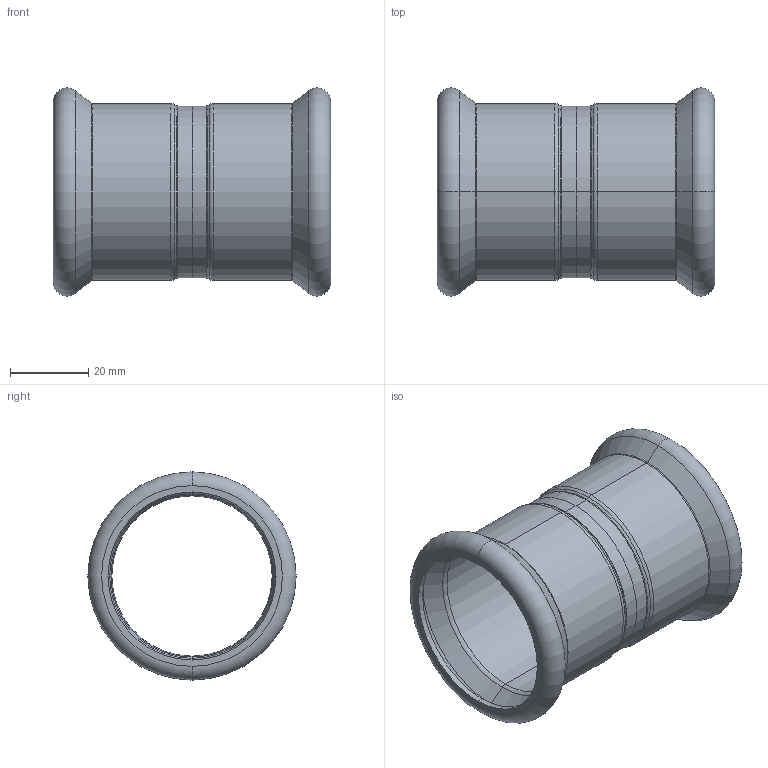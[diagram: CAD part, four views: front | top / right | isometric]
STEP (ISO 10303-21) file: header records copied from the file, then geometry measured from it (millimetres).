
FILE_DESCRIPTION (( 'STEP AP203' ), '1' );
FILE_NAME ('GDA5006.STEP', '2019-01-21T08:51:11', ( '' ), ( '' ), 'SwSTEP 2.0', 'SolidWorks 2015', '' );
FILE_SCHEMA (( 'CONFIG_CONTROL_DESIGN' ));
Length unit declared in the file: millimetre
Products named in the file (1): GDA5006
Bounding box: 71 x 53.3 x 53.3 mm (x, y, z)
Volume: 16771.2 mm3; surface area: 23176.9 mm2
Topology: 2 solids, 2 shells, 74 faces, 148 edges, 80 vertices
Faces by surface type: torus 32, cylinder 20, cone 16, plane 6
Entity records: 1999 total; most frequent: DIRECTION 410, CARTESIAN_POINT 303, ORIENTED_EDGE 296, AXIS2_PLACEMENT_3D 187, EDGE_CURVE 148, CIRCLE 112, EDGE_LOOP 80, VERTEX_POINT 80
